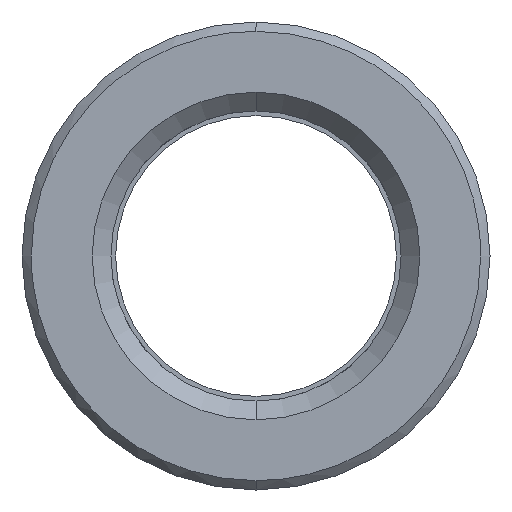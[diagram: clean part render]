
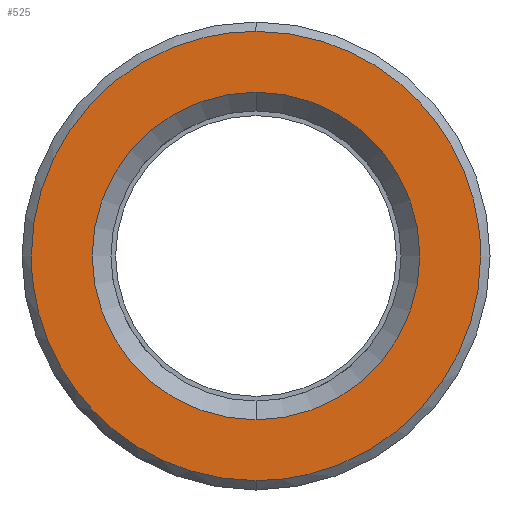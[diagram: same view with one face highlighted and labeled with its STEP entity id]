
A CAD part, left-side view. The second image highlights one B-rep face of the part: STEP entity #525.
In plain terms, the highlighted planar face has unit normal (-1, 0, 0).
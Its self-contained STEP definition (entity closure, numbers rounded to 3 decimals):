
#305=CARTESIAN_POINT('Axis2P3D Location',(0.,0.,0.)) ;
#309=CARTESIAN_POINT('Vertex',(0.,8.75,0.)) ;
#311=CARTESIAN_POINT('Vertex',(0.,0.,8.75)) ;
#314=CARTESIAN_POINT('Axis2P3D Location',(0.,0.,0.)) ;
#318=CARTESIAN_POINT('Vertex',(0.,0.,-8.75)) ;
#345=CARTESIAN_POINT('Axis2P3D Location',(0.,0.,0.)) ;
#349=CARTESIAN_POINT('Vertex',(0.,-8.75,0.)) ;
#352=CARTESIAN_POINT('Axis2P3D Location',(0.,0.,0.)) ;
#432=CARTESIAN_POINT('Axis2P3D Location',(0.,12.,0.)) ;
#438=CARTESIAN_POINT('Control Point',(0.,0.,-12.)) ;
#439=CARTESIAN_POINT('Control Point',(0.,0.982,-12.)) ;
#440=CARTESIAN_POINT('Control Point',(0.,1.964,-11.9)) ;
#441=CARTESIAN_POINT('Control Point',(0.,2.932,-11.699)) ;
#442=CARTESIAN_POINT('Control Point',(0.,5.011,-11.039)) ;
#443=CARTESIAN_POINT('Control Point',(0.,6.895,-9.93)) ;
#444=CARTESIAN_POINT('Control Point',(0.,7.845,-9.197)) ;
#445=CARTESIAN_POINT('Control Point',(0.,9.546,-7.512)) ;
#446=CARTESIAN_POINT('Control Point',(0.,10.784,-5.463)) ;
#447=CARTESIAN_POINT('Control Point',(0.,11.273,-4.367)) ;
#448=CARTESIAN_POINT('Control Point',(0.,11.741,-2.824)) ;
#449=CARTESIAN_POINT('Control Point',(0.,11.947,-1.236)) ;
#450=CARTESIAN_POINT('Control Point',(0.,11.982,-0.824)) ;
#451=CARTESIAN_POINT('Control Point',(0.,12.,-0.412)) ;
#452=CARTESIAN_POINT('Control Point',(0.,12.,0.)) ;
#453=CARTESIAN_POINT('Vertex',(0.,0.,-12.)) ;
#455=CARTESIAN_POINT('Vertex',(0.,12.,0.)) ;
#459=CARTESIAN_POINT('Control Point',(0.,-12.,0.)) ;
#460=CARTESIAN_POINT('Control Point',(0.,-12.,-1.188)) ;
#461=CARTESIAN_POINT('Control Point',(0.,-11.853,-2.376)) ;
#462=CARTESIAN_POINT('Control Point',(0.,-11.559,-3.54)) ;
#463=CARTESIAN_POINT('Control Point',(0.,-10.689,-5.77)) ;
#464=CARTESIAN_POINT('Control Point',(0.,-9.302,-7.721)) ;
#465=CARTESIAN_POINT('Control Point',(0.,-8.49,-8.605)) ;
#466=CARTESIAN_POINT('Control Point',(0.,-6.665,-10.155)) ;
#467=CARTESIAN_POINT('Control Point',(0.,-4.518,-11.213)) ;
#468=CARTESIAN_POINT('Control Point',(0.,-3.384,-11.606)) ;
#469=CARTESIAN_POINT('Control Point',(0.,-2.01,-11.897)) ;
#470=CARTESIAN_POINT('Control Point',(0.,-0.618,-11.987)) ;
#471=CARTESIAN_POINT('Control Point',(0.,-0.412,-11.996)) ;
#472=CARTESIAN_POINT('Control Point',(0.,-0.206,-12.)) ;
#473=CARTESIAN_POINT('Control Point',(0.,0.,-12.)) ;
#474=CARTESIAN_POINT('Vertex',(0.,-12.,0.)) ;
#478=CARTESIAN_POINT('Control Point',(0.,0.,12.)) ;
#479=CARTESIAN_POINT('Control Point',(0.,-0.982,12.)) ;
#480=CARTESIAN_POINT('Control Point',(0.,-1.964,11.9)) ;
#481=CARTESIAN_POINT('Control Point',(0.,-2.932,11.699)) ;
#482=CARTESIAN_POINT('Control Point',(0.,-5.011,11.039)) ;
#483=CARTESIAN_POINT('Control Point',(0.,-6.895,9.93)) ;
#484=CARTESIAN_POINT('Control Point',(0.,-7.845,9.197)) ;
#485=CARTESIAN_POINT('Control Point',(0.,-9.546,7.512)) ;
#486=CARTESIAN_POINT('Control Point',(0.,-10.784,5.463)) ;
#487=CARTESIAN_POINT('Control Point',(0.,-11.273,4.367)) ;
#488=CARTESIAN_POINT('Control Point',(0.,-11.741,2.824)) ;
#489=CARTESIAN_POINT('Control Point',(0.,-11.947,1.236)) ;
#490=CARTESIAN_POINT('Control Point',(0.,-11.982,0.824)) ;
#491=CARTESIAN_POINT('Control Point',(0.,-12.,0.412)) ;
#492=CARTESIAN_POINT('Control Point',(0.,-12.,0.)) ;
#493=CARTESIAN_POINT('Vertex',(0.,0.,12.)) ;
#497=CARTESIAN_POINT('Control Point',(0.,12.,0.)) ;
#498=CARTESIAN_POINT('Control Point',(0.,12.,1.188)) ;
#499=CARTESIAN_POINT('Control Point',(0.,11.853,2.376)) ;
#500=CARTESIAN_POINT('Control Point',(0.,11.559,3.54)) ;
#501=CARTESIAN_POINT('Control Point',(0.,10.689,5.77)) ;
#502=CARTESIAN_POINT('Control Point',(0.,9.302,7.721)) ;
#503=CARTESIAN_POINT('Control Point',(0.,8.49,8.605)) ;
#504=CARTESIAN_POINT('Control Point',(0.,6.665,10.155)) ;
#505=CARTESIAN_POINT('Control Point',(0.,4.518,11.213)) ;
#506=CARTESIAN_POINT('Control Point',(0.,3.384,11.606)) ;
#507=CARTESIAN_POINT('Control Point',(0.,2.01,11.897)) ;
#508=CARTESIAN_POINT('Control Point',(0.,0.618,11.987)) ;
#509=CARTESIAN_POINT('Control Point',(0.,0.412,11.996)) ;
#510=CARTESIAN_POINT('Control Point',(0.,0.206,12.)) ;
#511=CARTESIAN_POINT('Control Point',(0.,0.,12.)) ;
#306=DIRECTION('Axis2P3D Direction',(-1.,0.,0.)) ;
#315=DIRECTION('Axis2P3D Direction',(-1.,0.,0.)) ;
#346=DIRECTION('Axis2P3D Direction',(-1.,0.,0.)) ;
#353=DIRECTION('Axis2P3D Direction',(-1.,0.,0.)) ;
#433=DIRECTION('Axis2P3D Direction',(-1.,0.,0.)) ;
#434=DIRECTION('Axis2P3D XDirection',(0.,0.,1.)) ;
#307=AXIS2_PLACEMENT_3D('Circle Axis2P3D',#305,#306,$) ;
#316=AXIS2_PLACEMENT_3D('Circle Axis2P3D',#314,#315,$) ;
#347=AXIS2_PLACEMENT_3D('Circle Axis2P3D',#345,#346,$) ;
#354=AXIS2_PLACEMENT_3D('Circle Axis2P3D',#352,#353,$) ;
#435=AXIS2_PLACEMENT_3D('Plane Axis2P3D',#432,#433,#434) ;
#514=ORIENTED_EDGE('',*,*,#457,.F.) ;
#515=ORIENTED_EDGE('',*,*,#476,.F.) ;
#516=ORIENTED_EDGE('',*,*,#495,.F.) ;
#517=ORIENTED_EDGE('',*,*,#512,.F.) ;
#520=ORIENTED_EDGE('',*,*,#313,.T.) ;
#521=ORIENTED_EDGE('',*,*,#356,.T.) ;
#522=ORIENTED_EDGE('',*,*,#351,.T.) ;
#523=ORIENTED_EDGE('',*,*,#320,.T.) ;
#524=FACE_BOUND('',#519,.T.) ;
#525=ADVANCED_FACE('553-15X56',(#518,#524),#436,.T.) ;
#437=B_SPLINE_CURVE_WITH_KNOTS('',5,(#438,#439,#440,#441,#442,#443,#444,#445,#446,#447,#448,#449,#450,#451,#452),.UNSPECIFIED.,.F.,.U.,(6,3,3,3,6),(26.657,33.6,42.,50.399,53.312),.UNSPECIFIED.) ;
#458=B_SPLINE_CURVE_WITH_KNOTS('',5,(#459,#460,#461,#462,#463,#464,#465,#466,#467,#468,#469,#470,#471,#472,#473),.UNSPECIFIED.,.F.,.U.,(6,3,3,3,6),(0.,8.4,16.8,25.2,26.657),.UNSPECIFIED.) ;
#477=B_SPLINE_CURVE_WITH_KNOTS('',5,(#478,#479,#480,#481,#482,#483,#484,#485,#486,#487,#488,#489,#490,#491,#492),.UNSPECIFIED.,.F.,.U.,(6,3,3,3,6),(26.657,33.6,42.,50.399,53.312),.UNSPECIFIED.) ;
#496=B_SPLINE_CURVE_WITH_KNOTS('',5,(#497,#498,#499,#500,#501,#502,#503,#504,#505,#506,#507,#508,#509,#510,#511),.UNSPECIFIED.,.F.,.U.,(6,3,3,3,6),(0.,8.4,16.8,25.2,26.657),.UNSPECIFIED.) ;
#308=CIRCLE('generated circle',#307,8.75) ;
#317=CIRCLE('generated circle',#316,8.75) ;
#348=CIRCLE('generated circle',#347,8.75) ;
#355=CIRCLE('generated circle',#354,8.75) ;
#313=EDGE_CURVE('',#310,#312,#308,.F.) ;
#320=EDGE_CURVE('',#319,#310,#317,.F.) ;
#351=EDGE_CURVE('',#350,#319,#348,.F.) ;
#356=EDGE_CURVE('',#312,#350,#355,.F.) ;
#457=EDGE_CURVE('',#454,#456,#437,.T.) ;
#476=EDGE_CURVE('',#475,#454,#458,.T.) ;
#495=EDGE_CURVE('',#494,#475,#477,.T.) ;
#512=EDGE_CURVE('',#456,#494,#496,.T.) ;
#513=EDGE_LOOP('',(#514,#515,#516,#517)) ;
#519=EDGE_LOOP('',(#520,#521,#522,#523)) ;
#518=FACE_OUTER_BOUND('',#513,.T.) ;
#436=PLANE('Plane',#435) ;
#310=VERTEX_POINT('',#309) ;
#312=VERTEX_POINT('',#311) ;
#319=VERTEX_POINT('',#318) ;
#350=VERTEX_POINT('',#349) ;
#454=VERTEX_POINT('',#453) ;
#456=VERTEX_POINT('',#455) ;
#475=VERTEX_POINT('',#474) ;
#494=VERTEX_POINT('',#493) ;
